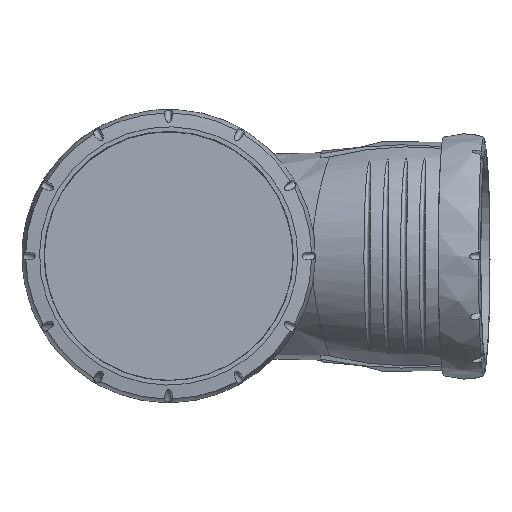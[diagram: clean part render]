
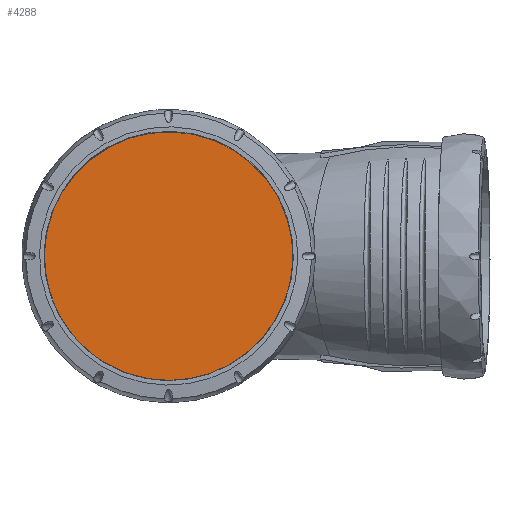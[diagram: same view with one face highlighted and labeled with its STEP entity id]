
A CAD part, top view. The second image highlights one B-rep face of the part: STEP entity #4288.
In plain terms, the highlighted planar face has unit normal (0, 0, 1).
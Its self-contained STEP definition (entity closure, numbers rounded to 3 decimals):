
#34=PLANE('',#4648);
#516=FACE_OUTER_BOUND('',#808,.T.);
#808=EDGE_LOOP('',(#3610,#3611));
#1076=CIRCLE('',#4639,55.5);
#1077=CIRCLE('',#4641,55.5);
#1784=VERTEX_POINT('',#15629);
#1785=VERTEX_POINT('',#15630);
#2390=EDGE_CURVE('',#1784,#1785,#1076,.T.);
#2393=EDGE_CURVE('',#1785,#1784,#1077,.T.);
#3610=ORIENTED_EDGE('',*,*,#2393,.F.);
#3611=ORIENTED_EDGE('',*,*,#2390,.F.);
#4288=ADVANCED_FACE('',(#516),#34,.T.);
#4639=AXIS2_PLACEMENT_3D('',#15631,#5386,#5387);
#4641=AXIS2_PLACEMENT_3D('',#15635,#5392,#5393);
#4648=AXIS2_PLACEMENT_3D('',#15649,#5409,#5410);
#5386=DIRECTION('center_axis',(0.,0.,
-1.));
#5387=DIRECTION('ref_axis',(-0.479,0.878,0.));
#5392=DIRECTION('center_axis',(0.,0.,
-1.));
#5393=DIRECTION('ref_axis',(0.479,-0.878,0.));
#5409=DIRECTION('center_axis',(0.,0.,
1.));
#5410=DIRECTION('ref_axis',(-0.669,-0.743,0.));
#15629=CARTESIAN_POINT('',(-26.608,48.706,284.1));
#15630=CARTESIAN_POINT('',(26.608,-48.706,284.1));
#15631=CARTESIAN_POINT('Origin',(-0.002,-0.001,
284.1));
#15635=CARTESIAN_POINT('Origin',(0.001,0.001,
284.1));
#15649=CARTESIAN_POINT('Origin',(-3.765,79.81,284.1));
